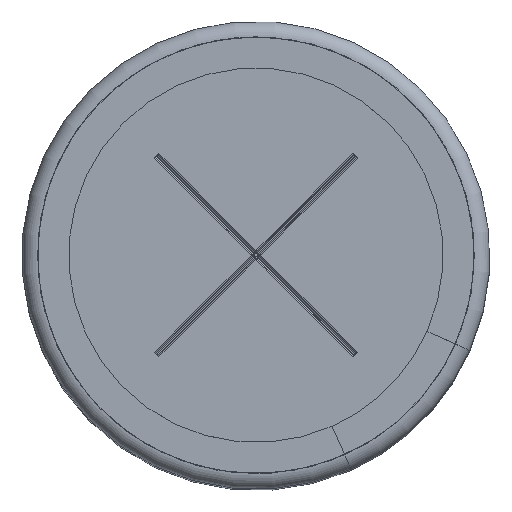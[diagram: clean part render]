
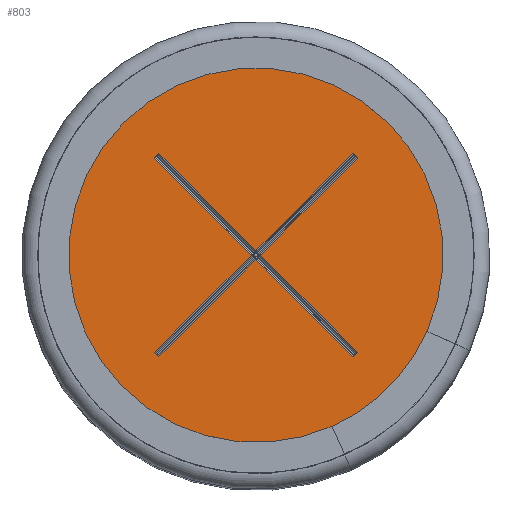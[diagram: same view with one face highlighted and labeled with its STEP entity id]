
A CAD part, top view. The second image highlights one B-rep face of the part: STEP entity #803.
In plain terms, the highlighted planar face has unit normal (0, 0, 1).
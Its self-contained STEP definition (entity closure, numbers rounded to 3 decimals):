
#176=FACE_BOUND('',#1284,.T.);
#177=FACE_BOUND('',#1285,.T.);
#687=PLANE('',#4047);
#803=ADVANCED_FACE('',(#176,#177),#687,.T.);
#1284=EDGE_LOOP('',(#2130));
#1285=EDGE_LOOP('',(#2131,#2132,#2133,#2134,#2135,#2136,#2137,#2138,#2139,
#2140,#2141,#2142));
#1517=LINE('',#5710,#1771);
#1518=LINE('',#5713,#1772);
#1519=LINE('',#5715,#1773);
#1520=LINE('',#5717,#1774);
#1521=LINE('',#5719,#1775);
#1522=LINE('',#5721,#1776);
#1523=LINE('',#5723,#1777);
#1524=LINE('',#5725,#1778);
#1525=LINE('',#5727,#1779);
#1526=LINE('',#5729,#1780);
#1527=LINE('',#5731,#1781);
#1528=LINE('',#5733,#1782);
#1771=VECTOR('',#4590,1.);
#1772=VECTOR('',#4591,1.);
#1773=VECTOR('',#4592,1.);
#1774=VECTOR('',#4593,1.);
#1775=VECTOR('',#4594,1.);
#1776=VECTOR('',#4595,1.);
#1777=VECTOR('',#4596,1.);
#1778=VECTOR('',#4597,1.);
#1779=VECTOR('',#4598,1.);
#1780=VECTOR('',#4599,1.);
#1781=VECTOR('',#4600,1.);
#1782=VECTOR('',#4601,1.);
#2130=ORIENTED_EDGE('',*,*,#3368,.F.);
#2131=ORIENTED_EDGE('',*,*,#3369,.T.);
#2132=ORIENTED_EDGE('',*,*,#3370,.T.);
#2133=ORIENTED_EDGE('',*,*,#3371,.T.);
#2134=ORIENTED_EDGE('',*,*,#3372,.F.);
#2135=ORIENTED_EDGE('',*,*,#3373,.T.);
#2136=ORIENTED_EDGE('',*,*,#3374,.T.);
#2137=ORIENTED_EDGE('',*,*,#3375,.F.);
#2138=ORIENTED_EDGE('',*,*,#3376,.T.);
#2139=ORIENTED_EDGE('',*,*,#3377,.T.);
#2140=ORIENTED_EDGE('',*,*,#3378,.T.);
#2141=ORIENTED_EDGE('',*,*,#3379,.T.);
#2142=ORIENTED_EDGE('',*,*,#3380,.T.);
#3038=VERTEX_POINT('',#5709);
#3039=VERTEX_POINT('',#5711);
#3040=VERTEX_POINT('',#5712);
#3041=VERTEX_POINT('',#5714);
#3042=VERTEX_POINT('',#5716);
#3043=VERTEX_POINT('',#5718);
#3044=VERTEX_POINT('',#5720);
#3045=VERTEX_POINT('',#5722);
#3046=VERTEX_POINT('',#5724);
#3047=VERTEX_POINT('',#5726);
#3048=VERTEX_POINT('',#5728);
#3049=VERTEX_POINT('',#5730);
#3050=VERTEX_POINT('',#5732);
#3368=EDGE_CURVE('',#3038,#3038,#3826,.T.);
#3369=EDGE_CURVE('',#3039,#3040,#1517,.T.);
#3370=EDGE_CURVE('',#3040,#3041,#1518,.T.);
#3371=EDGE_CURVE('',#3041,#3042,#1519,.T.);
#3372=EDGE_CURVE('',#3043,#3042,#1520,.T.);
#3373=EDGE_CURVE('',#3043,#3044,#1521,.T.);
#3374=EDGE_CURVE('',#3044,#3045,#1522,.T.);
#3375=EDGE_CURVE('',#3046,#3045,#1523,.T.);
#3376=EDGE_CURVE('',#3046,#3047,#1524,.T.);
#3377=EDGE_CURVE('',#3047,#3048,#1525,.T.);
#3378=EDGE_CURVE('',#3048,#3049,#1526,.T.);
#3379=EDGE_CURVE('',#3049,#3050,#1527,.T.);
#3380=EDGE_CURVE('',#3050,#3039,#1528,.T.);
#3826=CIRCLE('',#4046,14.);
#4046=AXIS2_PLACEMENT_3D('',#5708,#4588,#4589);
#4047=AXIS2_PLACEMENT_3D('',#5734,#4602,#4603);
#4588=DIRECTION('',(0.,0.,-1.));
#4589=DIRECTION('',(-1.,0.,0.));
#4590=DIRECTION('',(0.707,-0.707,0.));
#4591=DIRECTION('',(-0.707,-0.707,0.));
#4592=DIRECTION('',(0.707,-0.707,0.));
#4593=DIRECTION('',(0.707,0.707,0.));
#4594=DIRECTION('',(-0.707,0.707,0.));
#4595=DIRECTION('',(-0.707,-0.707,0.));
#4596=DIRECTION('',(0.707,-0.707,0.));
#4597=DIRECTION('',(0.707,0.707,0.));
#4598=DIRECTION('',(-0.707,0.707,0.));
#4599=DIRECTION('',(0.707,0.707,0.));
#4600=DIRECTION('',(0.707,-0.707,0.));
#4601=DIRECTION('',(0.707,0.707,0.));
#4602=DIRECTION('',(0.,0.,1.));
#4603=DIRECTION('',(1.,0.,0.));
#5708=CARTESIAN_POINT('',(0.,0.,49.8));
#5709=CARTESIAN_POINT('',(-14.,0.,49.8));
#5710=CARTESIAN_POINT('',(6.258,6.47,49.8));
#5711=CARTESIAN_POINT('',(6.214,6.514,49.8));
#5712=CARTESIAN_POINT('',(6.514,6.214,49.8));
#5713=CARTESIAN_POINT('',(-6.85,-7.15,49.8));
#5714=CARTESIAN_POINT('',(0.3,0.,49.8));
#5715=CARTESIAN_POINT('',(-6.85,7.15,49.8));
#5716=CARTESIAN_POINT('',(6.514,-6.214,49.8));
#5717=CARTESIAN_POINT('',(6.47,-6.258,49.8));
#5718=CARTESIAN_POINT('',(6.214,-6.514,49.8));
#5719=CARTESIAN_POINT('',(-7.15,6.85,49.8));
#5720=CARTESIAN_POINT('',(0.,-0.3,49.8));
#5721=CARTESIAN_POINT('',(-6.85,-7.15,49.8));
#5722=CARTESIAN_POINT('',(-6.214,-6.514,49.8));
#5723=CARTESIAN_POINT('',(-6.47,-6.258,49.8));
#5724=CARTESIAN_POINT('',(-6.514,-6.214,49.8));
#5725=CARTESIAN_POINT('',(-7.15,-6.85,49.8));
#5726=CARTESIAN_POINT('',(-0.3,0.,49.8));
#5727=CARTESIAN_POINT('',(-7.15,6.85,49.8));
#5728=CARTESIAN_POINT('',(-6.514,6.214,49.8));
#5729=CARTESIAN_POINT('',(-6.258,6.47,49.8));
#5730=CARTESIAN_POINT('',(-6.214,6.514,49.8));
#5731=CARTESIAN_POINT('',(-6.85,7.15,49.8));
#5732=CARTESIAN_POINT('',(0.,0.3,49.8));
#5733=CARTESIAN_POINT('',(-7.15,-6.85,49.8));
#5734=CARTESIAN_POINT('',(-14.,0.,49.8));
